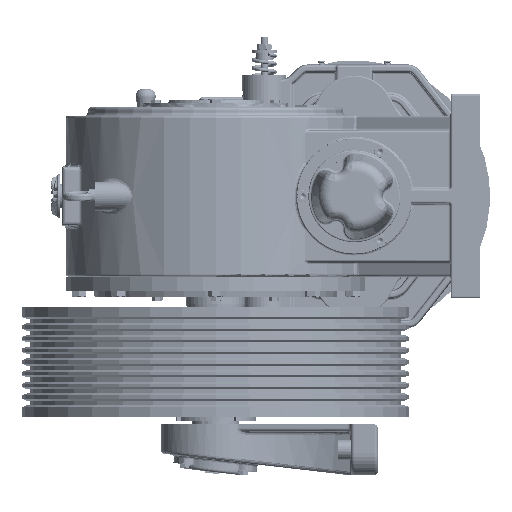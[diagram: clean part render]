
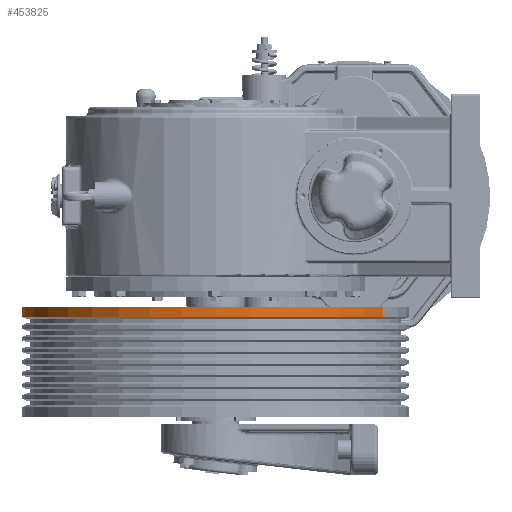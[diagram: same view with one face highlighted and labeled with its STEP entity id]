
A CAD part, left-side view. The second image highlights one B-rep face of the part: STEP entity #453825.
In plain terms, the highlighted cylindrical face has radius 265 mm (diameter 530 mm), a partial arc.
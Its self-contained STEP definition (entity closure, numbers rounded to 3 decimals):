
#18387 = CARTESIAN_POINT ( 'NONE',  ( -138.41, -100.219, 363.184 ) ) ;
#50098 = CARTESIAN_POINT ( 'NONE',  ( -6.478, 129.605, 438.184 ) ) ;
#83518 = EDGE_CURVE ( 'NONE', #250603, #555629, #642175, .T. ) ;
#104660 = VECTOR ( 'NONE', #180241, 1000. ) ;
#120740 = AXIS2_PLACEMENT_3D ( 'NONE', #521712, #574771, #262933 ) ;
#127671 = VERTEX_POINT ( 'NONE', #304587 ) ;
#128888 = DIRECTION ( 'NONE',  ( 0.498, 0.867, 0. ) ) ;
#167982 = DIRECTION ( 'NONE',  ( 0., 0., -1. ) ) ;
#171624 = ORIENTED_EDGE ( 'NONE', *, *, #177455, .F. ) ;
#177455 = EDGE_CURVE ( 'NONE', #250603, #127671, #217874, .T. ) ;
#180241 = DIRECTION ( 'NONE',  ( 0., 0., -1. ) ) ;
#217874 = LINE ( 'NONE', #18387, #259603 ) ;
#250603 = VERTEX_POINT ( 'NONE', #304428 ) ;
#259603 = VECTOR ( 'NONE', #167982, 1000. ) ;
#262933 = DIRECTION ( 'NONE',  ( 0.498, 0.867, 0. ) ) ;
#270198 = CARTESIAN_POINT ( 'NONE',  ( 125.454, 359.428, 438.184 ) ) ;
#278378 = FACE_OUTER_BOUND ( 'NONE', #387304, .T. ) ;
#284926 = DIRECTION ( 'NONE',  ( 0., 0., -1. ) ) ;
#301658 = AXIS2_PLACEMENT_3D ( 'NONE', #381333, #284926, #128888 ) ;
#302129 = ORIENTED_EDGE ( 'NONE', *, *, #360406, .T. ) ;
#304428 = CARTESIAN_POINT ( 'NONE',  ( -138.41, -100.219, 438.184 ) ) ;
#304587 = CARTESIAN_POINT ( 'NONE',  ( -138.41, -100.219, 424.684 ) ) ;
#326919 = CARTESIAN_POINT ( 'NONE',  ( 125.454, 359.428, 424.684 ) ) ;
#327097 = ORIENTED_EDGE ( 'NONE', *, *, #83518, .T. ) ;
#360406 = EDGE_CURVE ( 'NONE', #555629, #501524, #631693, .T. ) ;
#366536 = AXIS2_PLACEMENT_3D ( 'NONE', #50098, #654279, #371144 ) ;
#371144 = DIRECTION ( 'NONE',  ( 0.498, 0.867, 0. ) ) ;
#381333 = CARTESIAN_POINT ( 'NONE',  ( -6.478, 129.605, 363.184 ) ) ;
#387304 = EDGE_LOOP ( 'NONE', ( #171624, #327097, #302129, #402307 ) ) ;
#402307 = ORIENTED_EDGE ( 'NONE', *, *, #586534, .F. ) ;
#428456 = CIRCLE ( 'NONE', #120740, 265. ) ;
#431139 = CYLINDRICAL_SURFACE ( 'NONE', #301658, 265. ) ;
#453825 = ADVANCED_FACE ( 'NONE', ( #278378 ), #431139, .T. ) ;
#501524 = VERTEX_POINT ( 'NONE', #326919 ) ;
#521712 = CARTESIAN_POINT ( 'NONE',  ( -6.478, 129.605, 424.684 ) ) ;
#535311 = CARTESIAN_POINT ( 'NONE',  ( 125.454, 359.428, 363.184 ) ) ;
#555629 = VERTEX_POINT ( 'NONE', #270198 ) ;
#574771 = DIRECTION ( 'NONE',  ( 0., 0., -1. ) ) ;
#586534 = EDGE_CURVE ( 'NONE', #127671, #501524, #428456, .T. ) ;
#631693 = LINE ( 'NONE', #535311, #104660 ) ;
#642175 = CIRCLE ( 'NONE', #366536, 265. ) ;
#654279 = DIRECTION ( 'NONE',  ( 0., 0., -1. ) ) ;
